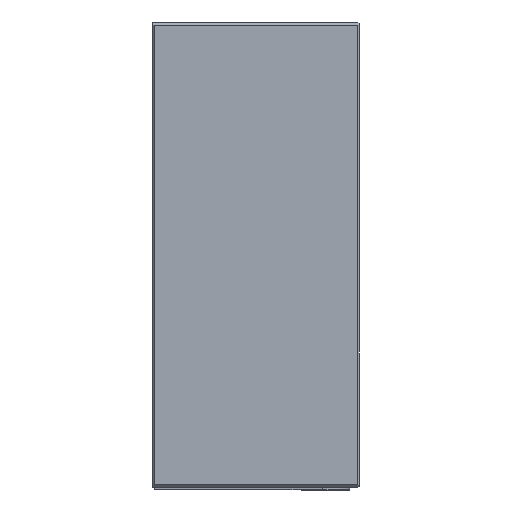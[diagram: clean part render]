
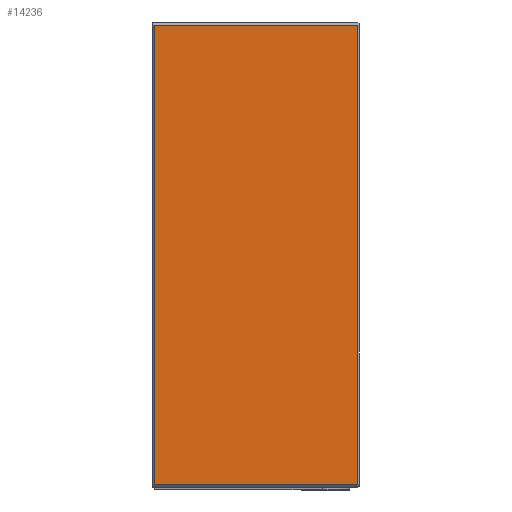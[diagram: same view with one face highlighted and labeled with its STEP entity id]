
A CAD part, left-side view. The second image highlights one B-rep face of the part: STEP entity #14236.
In plain terms, the highlighted planar face has unit normal (-1, 0, 0).
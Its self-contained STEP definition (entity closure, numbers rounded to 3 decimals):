
#3088=ORIENTED_EDGE('',*,*,#6088,.T.);
#3089=ORIENTED_EDGE('',*,*,#6089,.T.);
#3090=ORIENTED_EDGE('',*,*,#6090,.T.);
#3091=ORIENTED_EDGE('',*,*,#6091,.T.);
#6088=EDGE_CURVE('',#7742,#7743,#9068,.T.);
#6089=EDGE_CURVE('',#7743,#7744,#9069,.T.);
#6090=EDGE_CURVE('',#7744,#7745,#9070,.T.);
#6091=EDGE_CURVE('',#7745,#7742,#9071,.T.);
#7742=VERTEX_POINT('',#24805);
#7743=VERTEX_POINT('',#24806);
#7744=VERTEX_POINT('',#24808);
#7745=VERTEX_POINT('',#24810);
#9068=LINE('',#24804,#10554);
#9069=LINE('',#24807,#10555);
#9070=LINE('',#24809,#10556);
#9071=LINE('',#24811,#10557);
#10554=VECTOR('',#18277,1000.);
#10555=VECTOR('',#18278,1000.);
#10556=VECTOR('',#18279,1000.);
#10557=VECTOR('',#18280,1000.);
#11852=EDGE_LOOP('',(#3088,#3089,#3090,#3091));
#12813=FACE_BOUND('',#11852,.T.);
#13487=PLANE('',#15815);
#14236=ADVANCED_FACE('',(#12813),#13487,.F.);
#15815=AXIS2_PLACEMENT_3D('',#24803,#18275,#18276);
#18275=DIRECTION('',(1.,0.,0.));
#18276=DIRECTION('',(0.,1.,0.));
#18277=DIRECTION('',(0.,1.,0.));
#18278=DIRECTION('',(0.,0.,-1.));
#18279=DIRECTION('',(0.,-1.,0.));
#18280=DIRECTION('',(0.,0.,1.));
#24803=CARTESIAN_POINT('',(-375.,-100.,849.));
#24804=CARTESIAN_POINT('',(-375.,-100.,843.));
#24805=CARTESIAN_POINT('',(-375.,-472.,843.));
#24806=CARTESIAN_POINT('',(-375.,-103.,843.));
#24807=CARTESIAN_POINT('',(-375.,-103.,849.));
#24808=CARTESIAN_POINT('',(-375.,-103.,10.));
#24809=CARTESIAN_POINT('',(-375.,-100.,10.));
#24810=CARTESIAN_POINT('',(-375.,-472.,10.));
#24811=CARTESIAN_POINT('',(-375.,-472.,849.));
